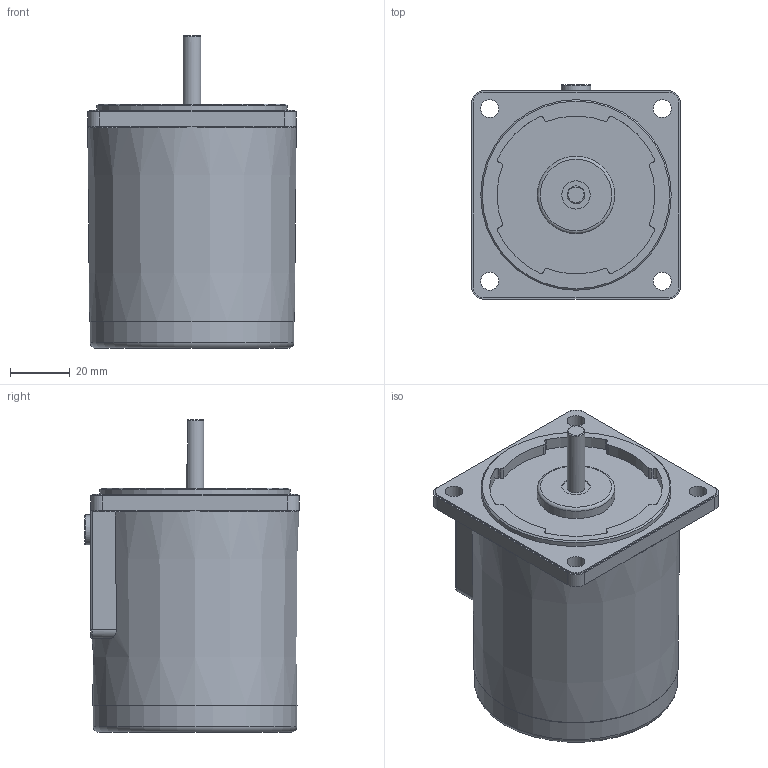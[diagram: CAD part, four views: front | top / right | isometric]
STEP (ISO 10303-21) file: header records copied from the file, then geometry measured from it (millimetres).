
FILE_DESCRIPTION (( 'STEP AP214' ), '1' );
FILE_NAME ('7IDD､ｱ-15.STEP', '2025-01-13T01:44:41', ( '' ), ( '' ), 'SwSTEP 2.0', 'SolidWorks 2024', '' );
FILE_SCHEMA (( 'AUTOMOTIVE_DESIGN' ));
Length unit declared in the file: millimetre
Products named in the file (1): 7IDDㅁ-15
Bounding box: 70 x 72 x 105 mm (x, y, z)
Volume: 311608.1 mm3; surface area: 29951.4 mm2
Topology: 1 solids, 1 shells, 115 faces, 289 edges, 184 vertices
Faces by surface type: cylinder 54, plane 42, torus 9, bspline 7, cone 3
Full cylindrical faces by diameter (mm): 6 x6, 9.5 x1, 10 x5, 26 x1, 34.5 x1, 64 x1, 68.4 x1
Entity records: 3528 total; most frequent: CARTESIAN_POINT 826, DIRECTION 590, ORIENTED_EDGE 510, EDGE_CURVE 255, AXIS2_PLACEMENT_3D 241, VERTEX_POINT 177, EDGE_LOOP 158, FACE_OUTER_BOUND 134
